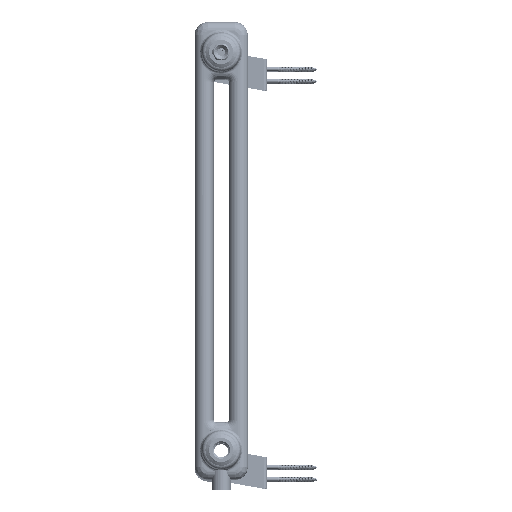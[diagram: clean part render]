
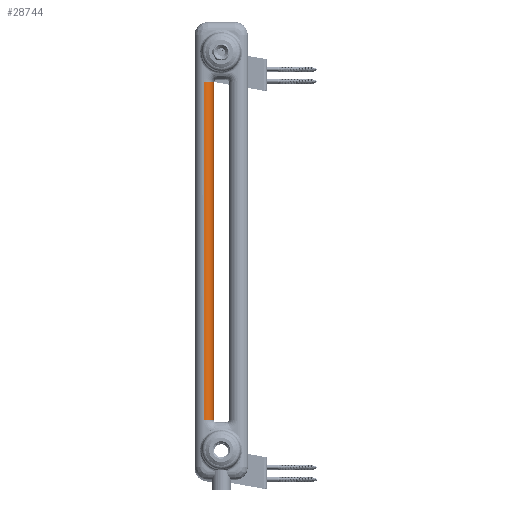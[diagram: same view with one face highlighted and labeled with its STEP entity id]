
A CAD part, top view. The second image highlights one B-rep face of the part: STEP entity #28744.
In plain terms, the highlighted cylindrical face has radius 12.5 mm (diameter 25 mm), a partial arc.
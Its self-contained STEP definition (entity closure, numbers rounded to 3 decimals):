
#10011=LINE('',#465290,#14466);
#10012=LINE('',#465291,#14467);
#14466=VECTOR('',#162976,1.);
#14467=VECTOR('',#162977,1.);
#16334=CYLINDRICAL_SURFACE('',#134005,12.5);
#28744=ADVANCED_FACE('',(#38420),#16334,.T.);
#38420=FACE_OUTER_BOUND('',#46458,.T.);
#46458=EDGE_LOOP('',(#80942,#80943,#80944,#80945,#80946,#80947));
#80942=ORIENTED_EDGE('',*,*,#112580,.F.);
#80943=ORIENTED_EDGE('',*,*,#112581,.F.);
#80944=ORIENTED_EDGE('',*,*,#112582,.F.);
#80945=ORIENTED_EDGE('',*,*,#112513,.T.);
#80946=ORIENTED_EDGE('',*,*,#112507,.T.);
#80947=ORIENTED_EDGE('',*,*,#112583,.F.);
#94600=VERTEX_POINT('',#463979);
#94601=VERTEX_POINT('',#463980);
#94604=VERTEX_POINT('',#463988);
#94649=VERTEX_POINT('',#465286);
#94650=VERTEX_POINT('',#465287);
#94651=VERTEX_POINT('',#465289);
#112507=EDGE_CURVE('',#94600,#94601,#121356,.T.);
#112513=EDGE_CURVE('',#94604,#94600,#121362,.T.);
#112580=EDGE_CURVE('',#94649,#94650,#121393,.T.);
#112581=EDGE_CURVE('',#94651,#94649,#121394,.T.);
#112582=EDGE_CURVE('',#94604,#94651,#10011,.T.);
#112583=EDGE_CURVE('',#94650,#94601,#10012,.T.);
#121356=CIRCLE('',#133952,12.5);
#121362=CIRCLE('',#133959,12.5);
#121393=CIRCLE('',#134003,12.5);
#121394=CIRCLE('',#134004,12.5);
#133952=AXIS2_PLACEMENT_3D('',#463978,#162853,#162854);
#133959=AXIS2_PLACEMENT_3D('',#463990,#162867,#162868);
#134003=AXIS2_PLACEMENT_3D('',#465285,#162972,#162973);
#134004=AXIS2_PLACEMENT_3D('',#465288,#162974,#162975);
#134005=AXIS2_PLACEMENT_3D('',#465292,#162978,#162979);
#162853=DIRECTION('',(0.,1.,0.));
#162854=DIRECTION('',(1.,0.,0.));
#162867=DIRECTION('',(0.,1.,0.));
#162868=DIRECTION('',(0.,0.,1.));
#162972=DIRECTION('',(0.,1.,0.));
#162973=DIRECTION('',(1.,0.,0.));
#162974=DIRECTION('',(0.,1.,0.));
#162975=DIRECTION('',(0.,0.,1.));
#162976=DIRECTION('',(0.,1.,0.));
#162977=DIRECTION('',(0.,-1.,0.));
#162978=DIRECTION('',(0.,-1.,0.));
#162979=DIRECTION('',(0.,0.,1.));
#463978=CARTESIAN_POINT('',(12.5,79.5,1102.5));
#463979=CARTESIAN_POINT('',(25.,79.5,1102.5));
#463980=CARTESIAN_POINT('',(12.5,79.5,1090.));
#463988=CARTESIAN_POINT('',(12.5,79.5,1115.));
#463990=CARTESIAN_POINT('',(12.5,79.5,1102.5));
#465285=CARTESIAN_POINT('',(12.5,523.5,1102.5));
#465286=CARTESIAN_POINT('',(25.,523.5,1102.5));
#465287=CARTESIAN_POINT('',(12.5,523.5,1090.));
#465288=CARTESIAN_POINT('',(12.5,523.5,1102.5));
#465289=CARTESIAN_POINT('',(12.5,523.5,1115.));
#465290=CARTESIAN_POINT('',(12.5,79.5,1115.));
#465291=CARTESIAN_POINT('',(12.5,523.5,1090.));
#465292=CARTESIAN_POINT('',(12.5,523.5,1102.5));
